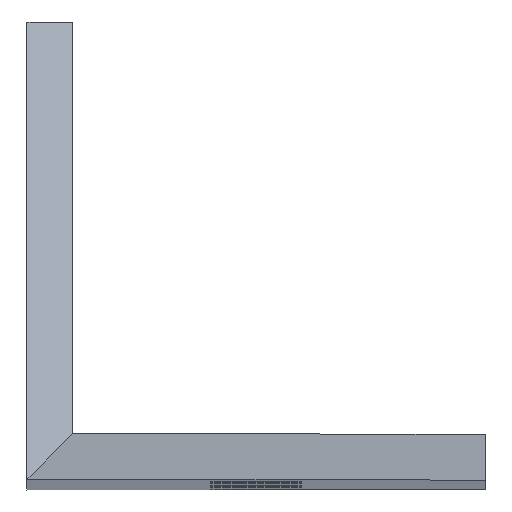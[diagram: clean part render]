
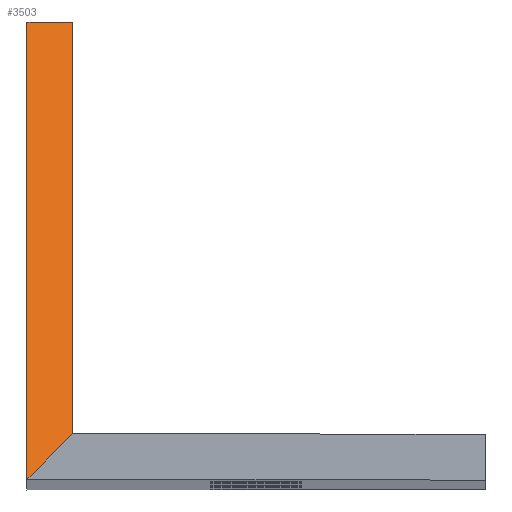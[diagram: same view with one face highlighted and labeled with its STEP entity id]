
A CAD part, top view. The second image highlights one B-rep face of the part: STEP entity #3503.
In plain terms, the highlighted planar face has unit normal (0, 0.707, 0.707).
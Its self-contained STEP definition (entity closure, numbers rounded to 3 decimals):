
#261 = AXIS2_PLACEMENT_3D ( 'NONE', #3986, #3978, #4011 ) ;
#551 = EDGE_CURVE ( 'NONE', #983, #925, #2135, .T. ) ;
#567 = EDGE_CURVE ( 'NONE', #925, #920, #2127, .T. ) ;
#577 = EDGE_CURVE ( 'NONE', #987, #983, #2193, .T. ) ;
#626 = EDGE_CURVE ( 'NONE', #987, #920, #2206, .T. ) ;
#802 = ORIENTED_EDGE ( 'NONE', *, *, #626, .T. ) ;
#823 = ORIENTED_EDGE ( 'NONE', *, *, #577, .F. ) ;
#833 = ORIENTED_EDGE ( 'NONE', *, *, #567, .F. ) ;
#860 = ORIENTED_EDGE ( 'NONE', *, *, #551, .F. ) ;
#920 = VERTEX_POINT ( 'NONE', #2554 ) ;
#925 = VERTEX_POINT ( 'NONE', #2540 ) ;
#983 = VERTEX_POINT ( 'NONE', #2600 ) ;
#987 = VERTEX_POINT ( 'NONE', #2615 ) ;
#1520 = FACE_OUTER_BOUND ( 'NONE', #1706, .T. ) ;
#1706 = EDGE_LOOP ( 'NONE', ( #802, #833, #860, #823 ) ) ;
#2127 = LINE ( 'NONE', #3394, #2128 ) ;
#2128 = VECTOR ( 'NONE', #3391, 1000. ) ;
#2135 = LINE ( 'NONE', #3321, #2148 ) ;
#2148 = VECTOR ( 'NONE', #3331, 1000. ) ;
#2181 = VECTOR ( 'NONE', #2564, 1000. ) ;
#2193 = LINE ( 'NONE', #2468, #2212 ) ;
#2206 = LINE ( 'NONE', #2503, #2181 ) ;
#2212 = VECTOR ( 'NONE', #2457, 1000. ) ;
#2457 = DIRECTION ( 'NONE',  ( 1., 0., 0. ) ) ;
#2468 = CARTESIAN_POINT ( 'NONE',  ( 0., 20., 247.859 ) ) ;
#2503 = CARTESIAN_POINT ( 'NONE',  ( 0., 0., 267.859 ) ) ;
#2540 = CARTESIAN_POINT ( 'NONE',  ( 2., 2., 265.859 ) ) ;
#2554 = CARTESIAN_POINT ( 'NONE',  ( 0., 0., 267.859 ) ) ;
#2564 = DIRECTION ( 'NONE',  ( 0., -0.707, 0.707 ) ) ;
#2600 = CARTESIAN_POINT ( 'NONE',  ( 2., 20., 247.859 ) ) ;
#2615 = CARTESIAN_POINT ( 'NONE',  ( 0., 20., 247.859 ) ) ;
#3321 = CARTESIAN_POINT ( 'NONE',  ( 2., 0., 267.859 ) ) ;
#3331 = DIRECTION ( 'NONE',  ( 0., -0.707, 0.707 ) ) ;
#3391 = DIRECTION ( 'NONE',  ( -0.577, -0.577, 0.577 ) ) ;
#3394 = CARTESIAN_POINT ( 'NONE',  ( 0.613, 0.613, 267.246 ) ) ;
#3503 = ADVANCED_FACE ( 'NONE', ( #1520 ), #4004, .F. ) ;
#3978 = DIRECTION ( 'NONE',  ( 0., -0.707, -0.707 ) ) ;
#3986 = CARTESIAN_POINT ( 'NONE',  ( 2., 0., 267.859 ) ) ;
#4004 = PLANE ( 'NONE',  #261 ) ;
#4011 = DIRECTION ( 'NONE',  ( 0., 0.707, -0.707 ) ) ;
